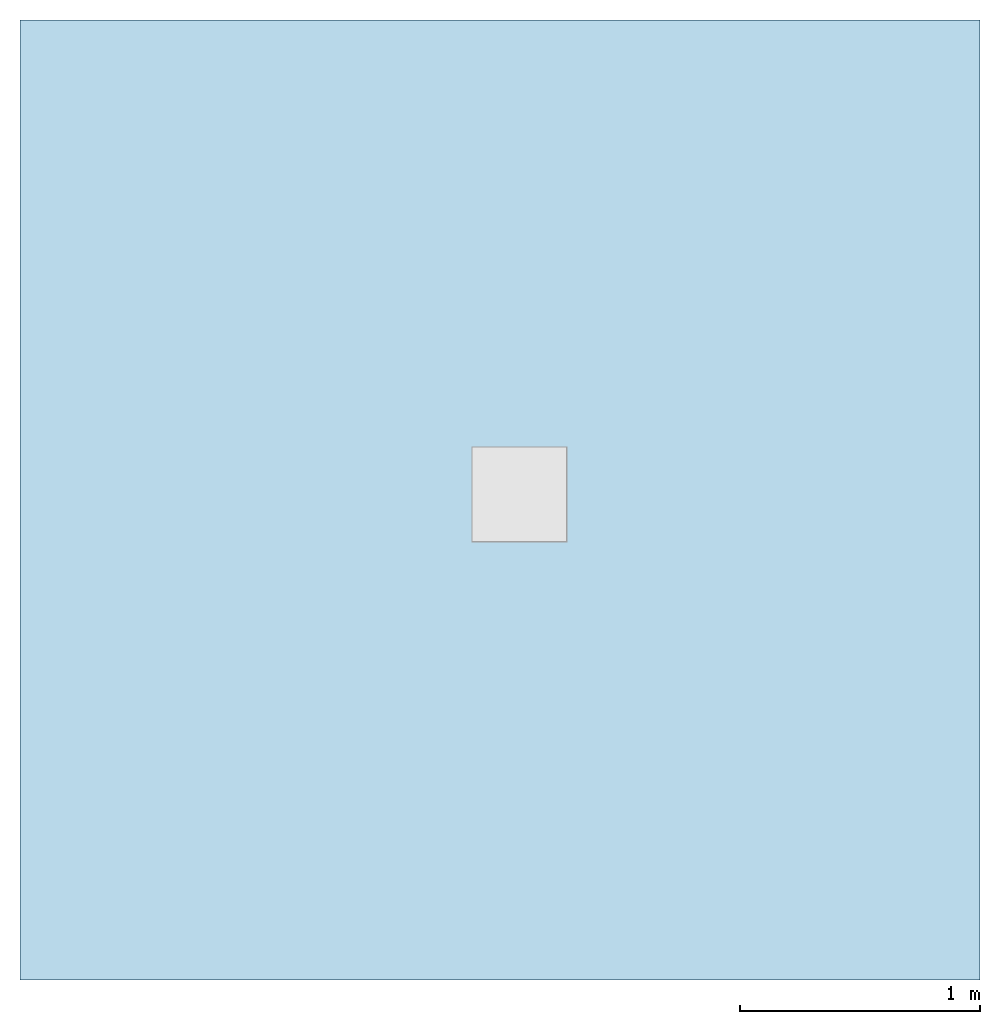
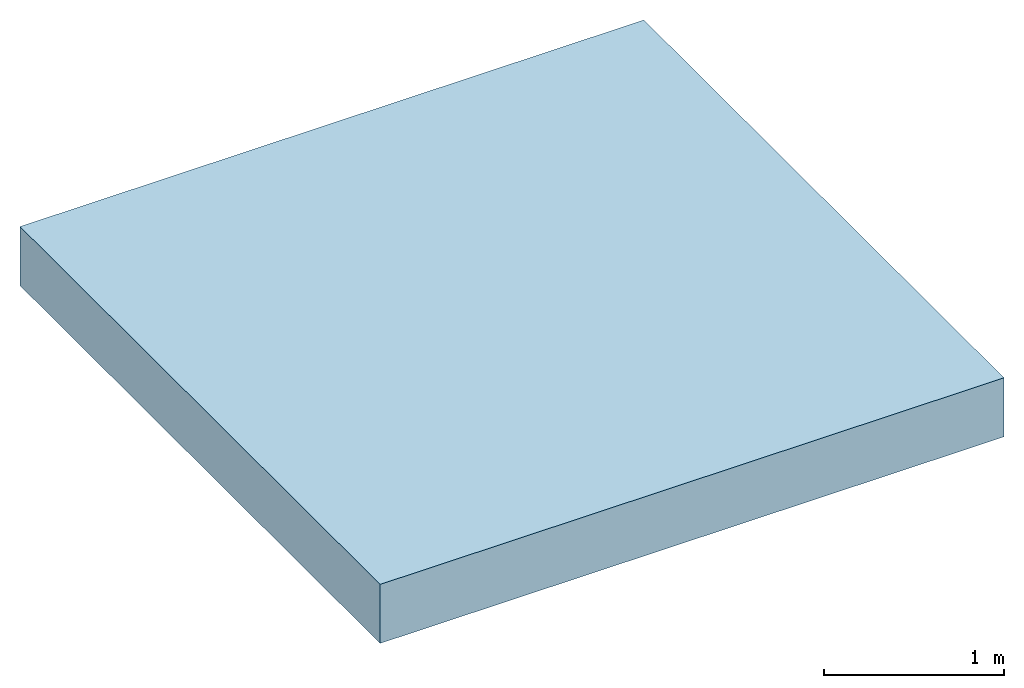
# One storey, incomplete: 1 slab, 2 openings.
"""IFC2X3 building model written with IfcOpenShell, lengths in millimetres."""

from ifc_helpers import new_model, entity, si_unit, converted_unit, derived_unit, direction, frame, frame_2d, origin, place, context, subcontext, project, spatial, rectangle, extrude, faceted_brep, material, layer, layer_set, layer_usage, element, save


model = new_model("IFC2X3")

# Units and contexts
model_context = context("Model", 3, precision=1e-05, world=origin(), true_north=direction((2.0, 6.12303176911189e-17, 1.0)))
context_of_model = context(None, 3, precision=1e-05, world=origin(), true_north=direction((2.0, 6.12303176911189e-17, 1.0)))
body_context = subcontext(model_context, "Body", "Model", "MODEL_VIEW")
ifc_project = project(units=[si_unit("LENGTHUNIT", "METRE", prefix="MILLI"), si_unit("AREAUNIT", "SQUARE_METRE"), si_unit("VOLUMEUNIT", "CUBIC_METRE"), converted_unit("PLANEANGLEUNIT", "DEGREE", entity("IfcRatioMeasure", 0.0174532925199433), si_unit("PLANEANGLEUNIT", "RADIAN"), dimensions=[0, 0, 0, 0, 0, 0, 0]), si_unit("MASSUNIT", "GRAM", prefix="KILO"), si_unit("TIMEUNIT", "SECOND"), si_unit("THERMODYNAMICTEMPERATUREUNIT", "KELVIN"), derived_unit("THERMALTRANSMITTANCEUNIT", [(si_unit("MASSUNIT", "GRAM", prefix="KILO"), 1), (si_unit("THERMODYNAMICTEMPERATUREUNIT", "KELVIN"), -1), (si_unit("TIMEUNIT", "SECOND"), -3)]), derived_unit("VOLUMETRICFLOWRATEUNIT", [(si_unit("LENGTHUNIT", "METRE"), 3), (si_unit("TIMEUNIT", "SECOND"), -1)]), si_unit("POWERUNIT", "WATT")], contexts=[model_context, context_of_model])

# Site, building, storey
site_placement = place(None, origin())
site = spatial("IfcSite", under=ifc_project, at=site_placement, Name="Default", CompositionType="ELEMENT")
building_placement = place(site_placement, origin())
building = spatial("IfcBuilding", under=site, at=building_placement, CompositionType="ELEMENT")
storey_placement = place(building_placement, origin())
storey = spatial("IfcBuildingStorey", under=building, at=storey_placement, Name="Level 1", CompositionType="ELEMENT", Elevation=0.0)

# Slab, openings
ifc_material = material(Name="Concrete, Broom Finish")
ifc_layer = layer(ifc_material, 400.0)
ifc_layer_set = layer_set([ifc_layer], Name="Floor:Generic Floor - 400mm")
ifc_layer_usage = layer_usage(ifc_layer_set, "AXIS3", "POSITIVE", 0.0)
slab_placement = place(storey_placement, origin())
slab = element("IfcSlab", 1, at=slab_placement, inside=storey, material=ifc_layer_usage, Name="Floor:Generic Floor - 400mm", ObjectType="Floor:Generic Floor - 400mm", PredefinedType="FLOOR", context=body_context, shape_type="SweptSolid", body=[
    extrude(rectangle(XDim=4000.0, YDim=4000.0, at=frame_2d((0.0, 0.0), x_axis=(0.0, -1.0))), frame((-42.176138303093, 2.05004766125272, 0.0), z_axis=(0.0, 0.0, -1.0), x_axis=(-1.0, 0.0, 0.0)), (0.0, 0.0, 1.0), 400.0),
])
opening_1_placement = place(slab_placement, frame((-159.205363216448, -171.729267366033, -5050.0)))
element("IfcOpeningElement", 2, at=opening_1_placement, cuts=slab, ObjectType="Recess", context=body_context, shape_type="Brep", body=[
    faceted_brep([(-161.715363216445, 225.760732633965, -105.0), (238.284636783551, 225.760732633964, -105.0), (238.28463678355, -174.239267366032, -105.0), (-161.715363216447, -174.23926736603, -105.0), (238.28463678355, -174.239267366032, -30.0), (236.784636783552, -172.739267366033, -30.0), (-160.215363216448, -172.739267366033, -30.0), (236.784636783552, 224.260732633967, -30.0), (-161.715363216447, -174.23926736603, -30.0), (-160.215363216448, 224.260732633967, -30.0), (238.284636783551, 225.760732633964, -30.0), (-161.715363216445, 225.760732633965, -30.0), (-160.215363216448, -172.739267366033, 2.0), (236.784636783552, -172.739267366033, 2.0), (236.784636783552, 224.260732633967, 2.0), (-160.215363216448, 224.260732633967, 2.0)], [[[0, 1, 2]], [[2, 3, 0]], [[4, 5, 6]], [[5, 4, 7]], [[8, 6, 9]], [[6, 8, 4]], [[7, 10, 9]], [[10, 7, 4]], [[9, 11, 8]], [[11, 9, 10]], [[2, 1, 10]], [[10, 4, 2]], [[3, 2, 8]], [[4, 8, 2]], [[0, 3, 8]], [[8, 11, 0]], [[1, 0, 10]], [[11, 10, 0]], [[12, 13, 14]], [[14, 15, 12]], [[14, 13, 5]], [[5, 7, 14]], [[15, 14, 7]], [[7, 9, 15]], [[12, 15, 9]], [[9, 6, 12]], [[13, 12, 6]], [[6, 5, 13]]]),
])
opening_2_placement = place(slab_placement, frame((-159.205363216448, -171.729267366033, -5050.0)))
element("IfcOpeningElement", 3, at=opening_2_placement, cuts=slab, ObjectType="Recess", context=body_context, shape_type="Brep", body=[
    faceted_brep([(394.979999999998, 0.0, 50.0), (247.49, 197.49, 50.0), (0.0, 0.0, 50.0), (394.979999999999, 394.979999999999, 50.0), (147.49, 197.49, 50.0), (0.0, 394.98, 50.0), (247.49, 297.49, 50.0), (147.49, 297.49, 50.0), (0.0, 394.98, 0.0), (394.979999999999, 394.979999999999, 0.0), (394.979999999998, 0.0, 0.0), (0.0, 0.0, 0.0), (147.49, 197.49, 80.0), (247.49, 197.49, 80.0), (247.49, 297.49, 80.0), (147.49, 297.49, 80.0)], [[[0, 1, 2]], [[1, 0, 3]], [[2, 4, 5]], [[4, 2, 1]], [[6, 3, 7]], [[3, 6, 1]], [[7, 5, 4]], [[5, 7, 3]], [[8, 9, 10]], [[10, 11, 8]], [[10, 9, 3]], [[3, 0, 10]], [[11, 10, 0]], [[0, 2, 11]], [[8, 11, 2]], [[2, 5, 8]], [[9, 8, 5]], [[5, 3, 9]], [[12, 4, 1]], [[1, 13, 12]], [[14, 6, 7]], [[7, 15, 14]], [[13, 1, 6]], [[6, 14, 13]], [[12, 13, 14]], [[14, 15, 12]], [[4, 12, 15]], [[15, 7, 4]]]),
])

save(model, "model.ifc")
